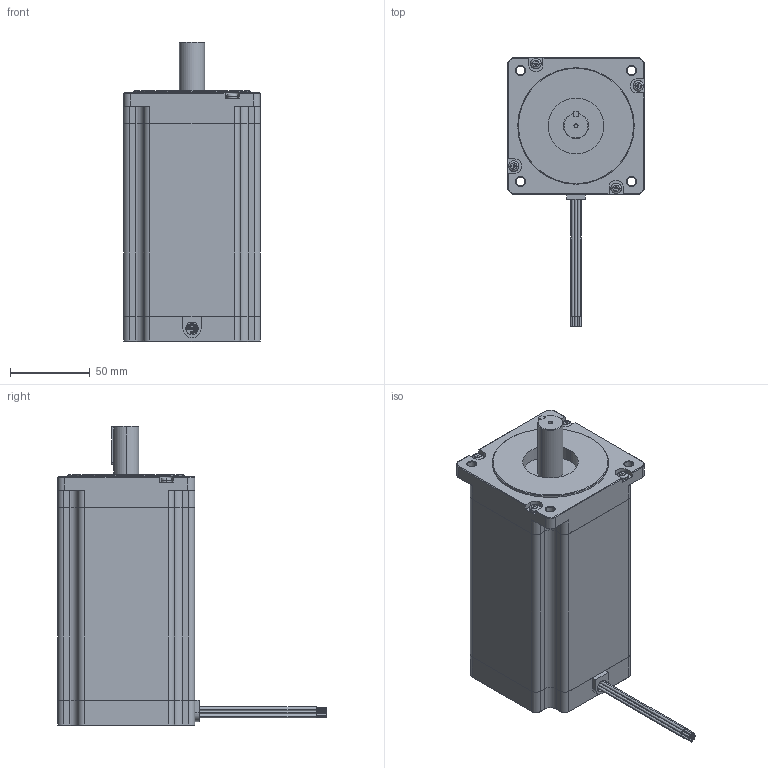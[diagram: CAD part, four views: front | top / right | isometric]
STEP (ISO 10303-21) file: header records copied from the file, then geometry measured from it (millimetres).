
FILE_DESCRIPTION (( 'STEP AP214' ), '1' );
FILE_NAME ('34Y308S-LW8.STEP', '2010-06-09T18:42:33', ( 'Tim Raines' ), ( 'Anaheim Automation' ), 'SwSTEP 2.0', 'SolidWorks 2010', '' );
FILE_SCHEMA (( 'AUTOMOTIVE_DESIGN' ));
Length unit declared in the file: inch
Products named in the file (1): 34Y308S-LW8
Bounding box: 85.85 x 168.4 x 187.71 mm (x, y, z)
Volume: 1054685.2 mm3; surface area: 73623.3 mm2
Topology: 1 solids, 1 shells, 366 faces, 921 edges, 584 vertices
Faces by surface type: plane 178, cylinder 125, cone 55, torus 8
Entity records: 15843 total; most frequent: CARTESIAN_POINT 2157, DIRECTION 1905, ORIENTED_EDGE 1826, EDGE_CURVE 913, AXIS2_PLACEMENT_3D 686, VERTEX_POINT 584, LINE 533, VECTOR 533
